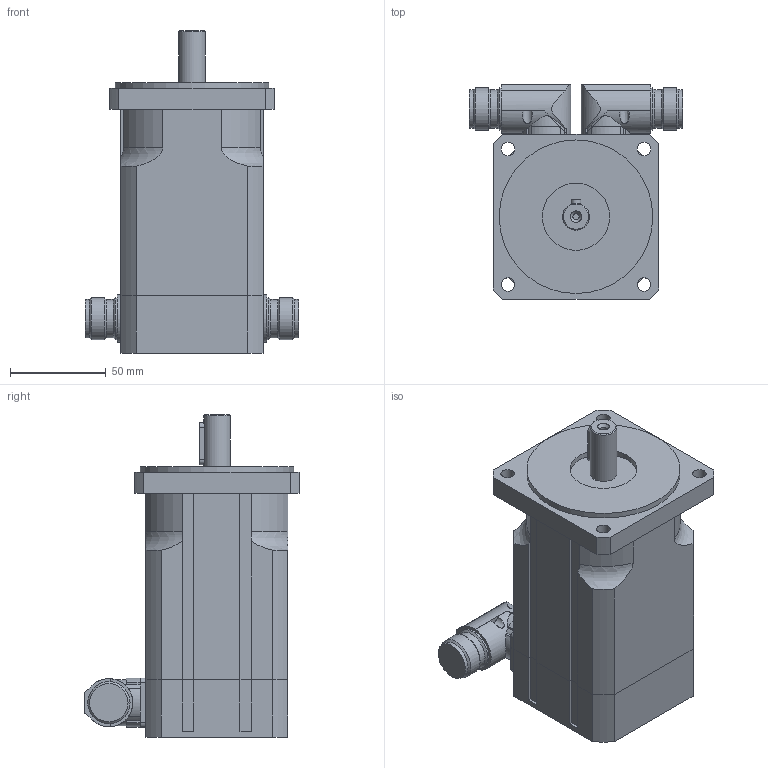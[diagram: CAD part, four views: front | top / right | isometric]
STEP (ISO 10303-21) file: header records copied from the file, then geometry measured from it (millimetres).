
FILE_DESCRIPTION(/* description */ ('Alibre Inc.'),/* implementation_level */ '2;1');
FILE_NAME(/* name */ 'export0',/* time_stamp */ '2011-08-11T10:32:39+02:00',/* author */ (''),/* organization */ (''),/* preprocessor_version */ 'ST-DEVELOPER v12',/* originating_system */ 'Alibre',/* authorisation */ '');
FILE_SCHEMA (('CONFIG_CONTROL_DESIGN'));
Length unit declared in the file: millimetre
Products named in the file (5): ID_1
Bounding box: 111 x 112 x 168 mm (x, y, z)
Volume: 803947.8 mm3; surface area: 87108.6 mm2
Topology: 5 solids, 5 shells, 234 faces, 633 edges, 421 vertices
Faces by surface type: cylinder 109, plane 87, bspline 27, cone 7, torus 4
Full cylindrical faces by diameter (mm): 2.7 x8, 14 x1, 20 x6, 22 x4, 35 x1, 80 x1
Entity records: 6506 total; most frequent: CARTESIAN_POINT 1996, ORIENTED_EDGE 832, DIRECTION 755, EDGE_CURVE 416, AXIS2_PLACEMENT_3D 299, VERTEX_POINT 292, VECTOR 223, LINE 223
